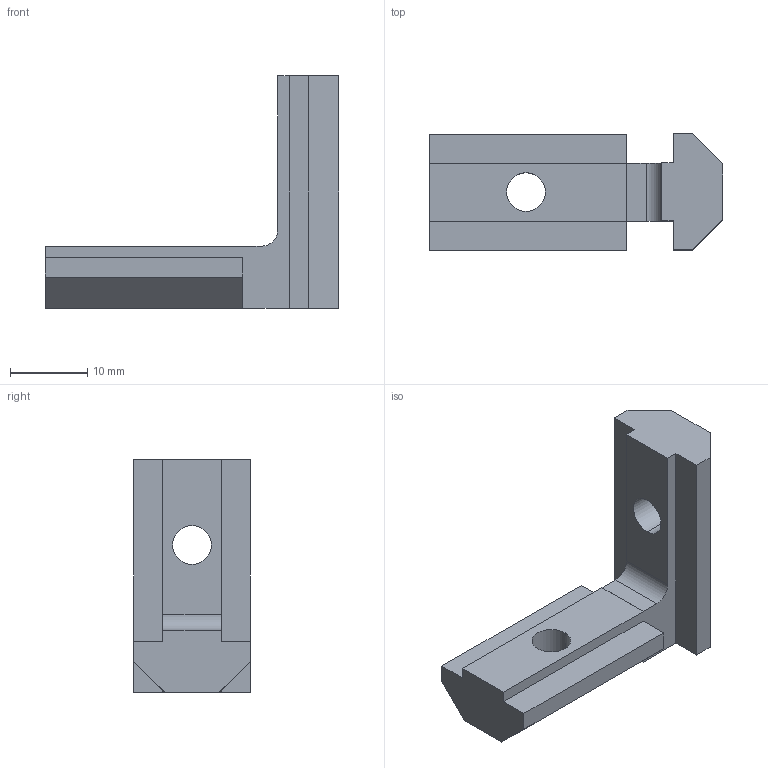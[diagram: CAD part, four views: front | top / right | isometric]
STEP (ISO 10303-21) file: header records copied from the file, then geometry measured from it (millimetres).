
FILE_DESCRIPTION (( 'STEP AP203' ), '1' );
FILE_NAME ('2029.STEP', '2016-03-23T15:26:09', ( '' ), ( '' ), 'SwSTEP 2.0', 'SolidWorks 2014', '' );
FILE_SCHEMA (( 'CONFIG_CONTROL_DESIGN' ));
Length unit declared in the file: millimetre
Products named in the file (1): 2029
Bounding box: 37.9 x 15 x 30 mm (x, y, z)
Volume: 5094.9 mm3; surface area: 2847.1 mm2
Topology: 1 solids, 1 shells, 31 faces, 85 edges, 56 vertices
Faces by surface type: plane 26, cylinder 5
Entity records: 1058 total; most frequent: CARTESIAN_POINT 173, ORIENTED_EDGE 170, DIRECTION 159, EDGE_CURVE 85, VECTOR 75, LINE 75, VERTEX_POINT 56, AXIS2_PLACEMENT_3D 42
